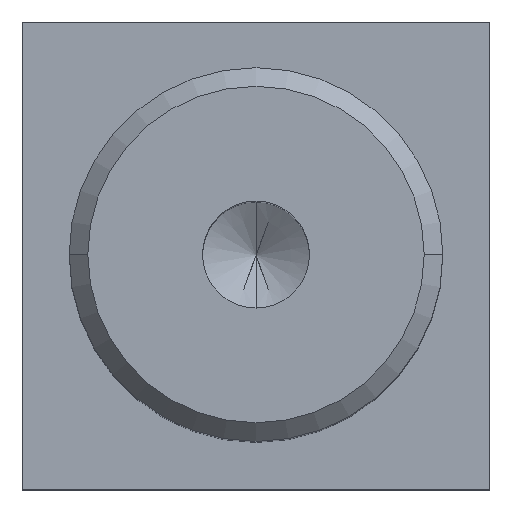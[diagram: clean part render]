
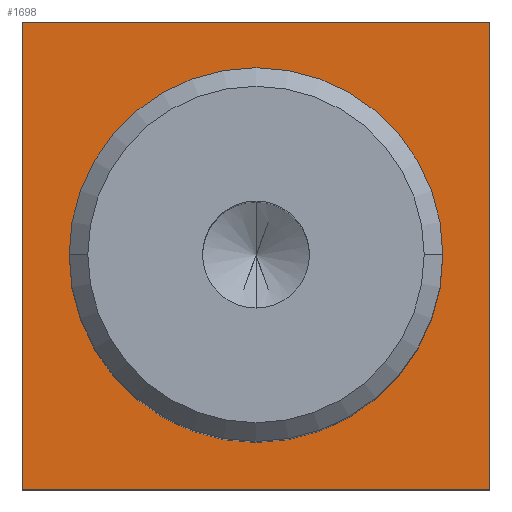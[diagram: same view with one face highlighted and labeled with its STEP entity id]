
A CAD part, top view. The second image highlights one B-rep face of the part: STEP entity #1698.
In plain terms, the highlighted planar face has unit normal (0, 0, 1).
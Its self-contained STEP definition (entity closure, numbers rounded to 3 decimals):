
#1205 = EDGE_CURVE ( 'NONE', #1206, #1207, #3711, .T. ) ;
#1206 = VERTEX_POINT ( 'NONE', #3767 ) ;
#1207 = VERTEX_POINT ( 'NONE', #3766 ) ;
#1599 = VERTEX_POINT ( 'NONE', #4440 ) ;
#1626 = ORIENTED_EDGE ( 'NONE', *, *, #1205, .F. ) ;
#1627 = ORIENTED_EDGE ( 'NONE', *, *, #1684, .F. ) ;
#1634 = EDGE_CURVE ( 'NONE', #1648, #1656, #4482, .T. ) ;
#1648 = VERTEX_POINT ( 'NONE', #4517 ) ;
#1650 = EDGE_CURVE ( 'NONE', #1664, #1648, #4516, .T. ) ;
#1655 = EDGE_CURVE ( 'NONE', #1656, #1599, #4512, .T. ) ;
#1656 = VERTEX_POINT ( 'NONE', #4508 ) ;
#1664 = VERTEX_POINT ( 'NONE', #4556 ) ;
#1666 = EDGE_CURVE ( 'NONE', #1599, #1664, #4555, .T. ) ;
#1684 = EDGE_CURVE ( 'NONE', #1207, #1206, #4593, .T. ) ;
#1698 = ADVANCED_FACE ( 'NONE', ( #4576, #4571 ), #4570, .T. ) ;
#1699 = EDGE_LOOP ( 'NONE', ( #1700, #1701, #1702, #1703 ) ) ;
#1700 = ORIENTED_EDGE ( 'NONE', *, *, #1650, .T. ) ;
#1701 = ORIENTED_EDGE ( 'NONE', *, *, #1634, .T. ) ;
#1702 = ORIENTED_EDGE ( 'NONE', *, *, #1655, .T. ) ;
#1703 = ORIENTED_EDGE ( 'NONE', *, *, #1666, .T. ) ;
#1704 = EDGE_LOOP ( 'NONE', ( #1626, #1627 ) ) ;
#3707 = DIRECTION ( 'NONE',  ( 1., 0., 0. ) ) ;
#3708 = DIRECTION ( 'NONE',  ( 0., 0., 1. ) ) ;
#3709 = CARTESIAN_POINT ( 'NONE',  ( 0., 0., 48.5 ) ) ;
#3710 = AXIS2_PLACEMENT_3D ( 'NONE', #3709, #3708, #3707 ) ;
#3711 = CIRCLE ( 'NONE', #3710, 20. ) ;
#3766 = CARTESIAN_POINT ( 'NONE',  ( -20., 0., 48.5 ) ) ;
#3767 = CARTESIAN_POINT ( 'NONE',  ( 20., 0., 48.5 ) ) ;
#4440 = CARTESIAN_POINT ( 'NONE',  ( 25., 25., 48.5 ) ) ;
#4476 = DIRECTION ( 'NONE',  ( 1., 0., 0. ) ) ;
#4477 = VECTOR ( 'NONE', #4476, 1000. ) ;
#4478 = CARTESIAN_POINT ( 'NONE',  ( 0., -25., 48.5 ) ) ;
#4482 = LINE ( 'NONE', #4478, #4477 ) ;
#4508 = CARTESIAN_POINT ( 'NONE',  ( 25., -25., 48.5 ) ) ;
#4509 = DIRECTION ( 'NONE',  ( 0., 1., 0. ) ) ;
#4510 = VECTOR ( 'NONE', #4509, 1000. ) ;
#4511 = CARTESIAN_POINT ( 'NONE',  ( 25., 0., 48.5 ) ) ;
#4512 = LINE ( 'NONE', #4511, #4510 ) ;
#4513 = DIRECTION ( 'NONE',  ( 0., -1., 0. ) ) ;
#4514 = VECTOR ( 'NONE', #4513, 1000. ) ;
#4515 = CARTESIAN_POINT ( 'NONE',  ( -25., 0., 48.5 ) ) ;
#4516 = LINE ( 'NONE', #4515, #4514 ) ;
#4517 = CARTESIAN_POINT ( 'NONE',  ( -25., -25., 48.5 ) ) ;
#4552 = DIRECTION ( 'NONE',  ( -1., 0., 0. ) ) ;
#4553 = VECTOR ( 'NONE', #4552, 1000. ) ;
#4554 = CARTESIAN_POINT ( 'NONE',  ( 0., 25., 48.5 ) ) ;
#4555 = LINE ( 'NONE', #4554, #4553 ) ;
#4556 = CARTESIAN_POINT ( 'NONE',  ( -25., 25., 48.5 ) ) ;
#4565 = DIRECTION ( 'NONE',  ( 1., 0., 0. ) ) ;
#4566 = DIRECTION ( 'NONE',  ( 0., 0., 1. ) ) ;
#4567 = AXIS2_PLACEMENT_3D ( 'NONE', #4569, #4566, #4565 ) ;
#4569 = CARTESIAN_POINT ( 'NONE',  ( 0., 0., 48.5 ) ) ;
#4570 = PLANE ( 'NONE',  #4567 ) ;
#4571 = FACE_BOUND ( 'NONE', #1704, .T. ) ;
#4576 = FACE_OUTER_BOUND ( 'NONE', #1699, .T. ) ;
#4589 = DIRECTION ( 'NONE',  ( 1., 0., 0. ) ) ;
#4590 = DIRECTION ( 'NONE',  ( 0., 0., 1. ) ) ;
#4591 = CARTESIAN_POINT ( 'NONE',  ( 0., 0., 48.5 ) ) ;
#4592 = AXIS2_PLACEMENT_3D ( 'NONE', #4591, #4590, #4589 ) ;
#4593 = CIRCLE ( 'NONE', #4592, 20. ) ;
